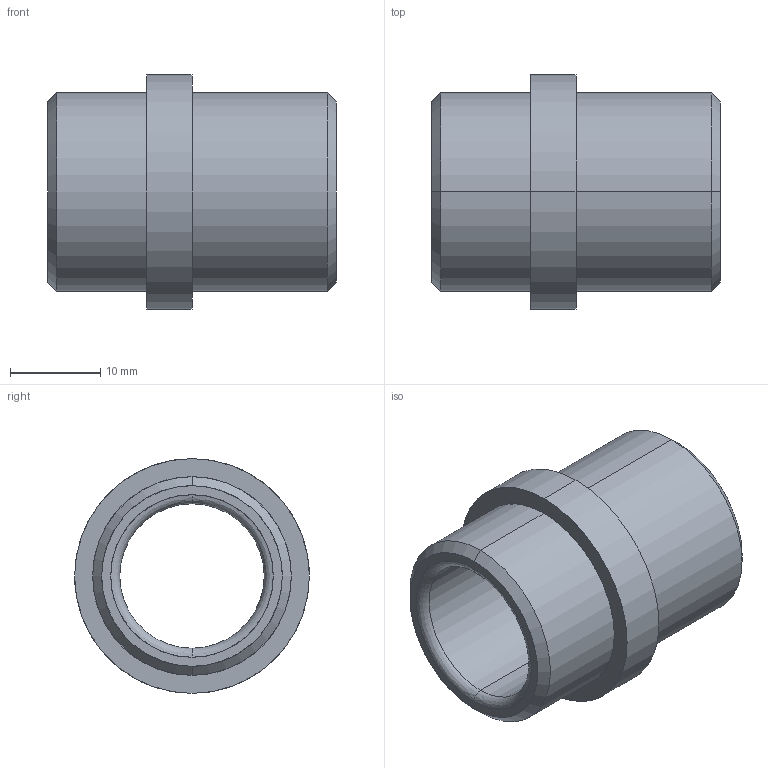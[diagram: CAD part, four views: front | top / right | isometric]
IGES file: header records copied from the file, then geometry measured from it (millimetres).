
Start section: START RECORD GO HERE.
Global section: file name: 354-16X32.igs; native system: DASSAULT SYSTEMES CATIA V5 R20 - www.3ds.com; preprocessor: CATIA Version 5 Release 20 ; author: Utente; organization: NB04-ASUS; date: 20210421.104835; units: millimetre
Bounding box: 32 x 26 x 26 mm (x, y, z)
Surface area: 4416.9 mm2 (no closed solid volume)
Topology: 0 solids, 0 shells, 20 faces, 128 edges, 128 vertices
Faces by surface type: revolution 16, plane 4
